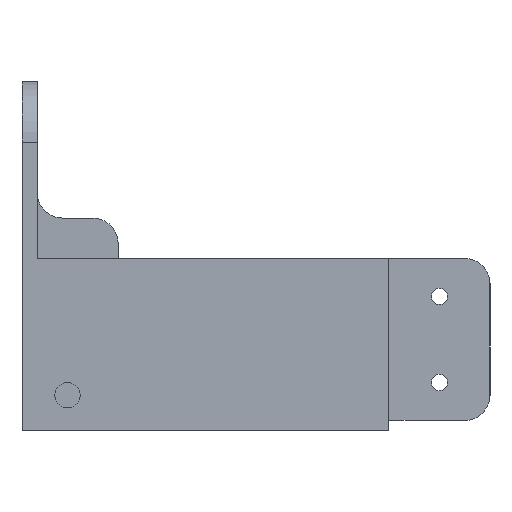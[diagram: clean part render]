
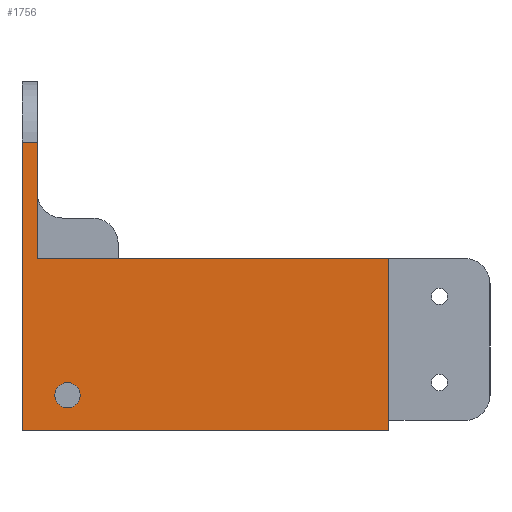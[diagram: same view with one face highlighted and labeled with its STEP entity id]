
A CAD part, left-side view. The second image highlights one B-rep face of the part: STEP entity #1756.
In plain terms, the highlighted planar face has unit normal (-1, 0, 0).
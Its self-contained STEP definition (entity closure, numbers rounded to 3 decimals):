
#11 = VECTOR ( 'NONE', #2443, 1000. ) ;
#88 = DIRECTION ( 'NONE',  ( 0., 0., 1. ) ) ;
#91 = ORIENTED_EDGE ( 'NONE', *, *, #1328, .T. ) ;
#134 = CARTESIAN_POINT ( 'NONE',  ( -69.5, 69.5, 2. ) ) ;
#152 = EDGE_CURVE ( 'NONE', #1823, #1288, #1094, .T. ) ;
#301 = ORIENTED_EDGE ( 'NONE', *, *, #1180, .F. ) ;
#334 = DIRECTION ( 'NONE',  ( 0., -1., 0. ) ) ;
#402 = VECTOR ( 'NONE', #1869, 1000. ) ;
#514 = EDGE_CURVE ( 'NONE', #2028, #1634, #2472, .T. ) ;
#522 = ORIENTED_EDGE ( 'NONE', *, *, #1790, .F. ) ;
#554 = AXIS2_PLACEMENT_3D ( 'NONE', #793, #2046, #1852 ) ;
#688 = CARTESIAN_POINT ( 'NONE',  ( -69.5, 66.5, 2. ) ) ;
#720 = LINE ( 'NONE', #2653, #1586 ) ;
#733 = DIRECTION ( 'NONE',  ( -1., 0., 0. ) ) ;
#737 = ORIENTED_EDGE ( 'NONE', *, *, #1713, .T. ) ;
#793 = CARTESIAN_POINT ( 'NONE',  ( -69.5, 69.5, 2. ) ) ;
#823 = CARTESIAN_POINT ( 'NONE',  ( -69.5, -3., 2. ) ) ;
#868 = EDGE_LOOP ( 'NONE', ( #2481, #91, #522, #2683, #737, #1673 ) ) ;
#905 = LINE ( 'NONE', #134, #11 ) ;
#919 = FACE_BOUND ( 'NONE', #1968, .T. ) ;
#960 = CARTESIAN_POINT ( 'NONE',  ( -69.5, 60.5, 7. ) ) ;
#1009 = VECTOR ( 'NONE', #88, 1000. ) ;
#1045 = CARTESIAN_POINT ( 'NONE',  ( -69.5, 60.5, 7. ) ) ;
#1094 = CIRCLE ( 'NONE', #1907, 2.5 ) ;
#1119 = LINE ( 'NONE', #1184, #1290 ) ;
#1180 = EDGE_CURVE ( 'NONE', #1288, #1823, #2081, .T. ) ;
#1184 = CARTESIAN_POINT ( 'NONE',  ( -69.5, 69.5, 57. ) ) ;
#1258 = DIRECTION ( 'NONE',  ( 0., -1., 0. ) ) ;
#1288 = VERTEX_POINT ( 'NONE', #2108 ) ;
#1290 = VECTOR ( 'NONE', #2663, 1000. ) ;
#1328 = EDGE_CURVE ( 'NONE', #1634, #1740, #1411, .T. ) ;
#1411 = LINE ( 'NONE', #823, #2050 ) ;
#1421 = DIRECTION ( 'NONE',  ( 0., -1., 0. ) ) ;
#1451 = CARTESIAN_POINT ( 'NONE',  ( -69.5, 69.5, 0. ) ) ;
#1454 = CARTESIAN_POINT ( 'NONE',  ( -69.5, 66.5, 34. ) ) ;
#1586 = VECTOR ( 'NONE', #1421, 1000. ) ;
#1634 = VERTEX_POINT ( 'NONE', #2073 ) ;
#1648 = PLANE ( 'NONE',  #554 ) ;
#1673 = ORIENTED_EDGE ( 'NONE', *, *, #2467, .T. ) ;
#1705 = VERTEX_POINT ( 'NONE', #2655 ) ;
#1713 = EDGE_CURVE ( 'NONE', #2202, #1705, #1119, .T. ) ;
#1740 = VERTEX_POINT ( 'NONE', #2476 ) ;
#1756 = ADVANCED_FACE ( 'NONE', ( #919, #2664 ), #1648, .F. ) ;
#1790 = EDGE_CURVE ( 'NONE', #2688, #1740, #720, .T. ) ;
#1812 = CARTESIAN_POINT ( 'NONE',  ( -69.5, 66.5, 57. ) ) ;
#1823 = VERTEX_POINT ( 'NONE', #2057 ) ;
#1852 = DIRECTION ( 'NONE',  ( 0., 1., 0. ) ) ;
#1865 = DIRECTION ( 'NONE',  ( 0., 0., 1. ) ) ;
#1869 = DIRECTION ( 'NONE',  ( 0., -1., 0. ) ) ;
#1907 = AXIS2_PLACEMENT_3D ( 'NONE', #1045, #1908, #1258 ) ;
#1908 = DIRECTION ( 'NONE',  ( -1., 0., 0. ) ) ;
#1968 = EDGE_LOOP ( 'NONE', ( #2585, #301 ) ) ;
#1973 = LINE ( 'NONE', #688, #1009 ) ;
#1974 = CARTESIAN_POINT ( 'NONE',  ( -69.5, 69.5, 0. ) ) ;
#2028 = VERTEX_POINT ( 'NONE', #1974 ) ;
#2046 = DIRECTION ( 'NONE',  ( 1., 0., 0. ) ) ;
#2050 = VECTOR ( 'NONE', #1865, 1000. ) ;
#2057 = CARTESIAN_POINT ( 'NONE',  ( -69.5, 58., 7. ) ) ;
#2073 = CARTESIAN_POINT ( 'NONE',  ( -69.5, -3., 0. ) ) ;
#2081 = CIRCLE ( 'NONE', #2123, 2.5 ) ;
#2083 = EDGE_CURVE ( 'NONE', #2688, #2202, #1973, .T. ) ;
#2108 = CARTESIAN_POINT ( 'NONE',  ( -69.5, 63., 7. ) ) ;
#2123 = AXIS2_PLACEMENT_3D ( 'NONE', #960, #733, #334 ) ;
#2202 = VERTEX_POINT ( 'NONE', #1812 ) ;
#2443 = DIRECTION ( 'NONE',  ( 0., 0., -1. ) ) ;
#2467 = EDGE_CURVE ( 'NONE', #1705, #2028, #905, .T. ) ;
#2472 = LINE ( 'NONE', #1451, #402 ) ;
#2476 = CARTESIAN_POINT ( 'NONE',  ( -69.5, -3., 34. ) ) ;
#2481 = ORIENTED_EDGE ( 'NONE', *, *, #514, .T. ) ;
#2585 = ORIENTED_EDGE ( 'NONE', *, *, #152, .F. ) ;
#2653 = CARTESIAN_POINT ( 'NONE',  ( -69.5, 69.5, 34. ) ) ;
#2655 = CARTESIAN_POINT ( 'NONE',  ( -69.5, 69.5, 57. ) ) ;
#2663 = DIRECTION ( 'NONE',  ( 0., 1., 0. ) ) ;
#2664 = FACE_OUTER_BOUND ( 'NONE', #868, .T. ) ;
#2683 = ORIENTED_EDGE ( 'NONE', *, *, #2083, .T. ) ;
#2688 = VERTEX_POINT ( 'NONE', #1454 ) ;
